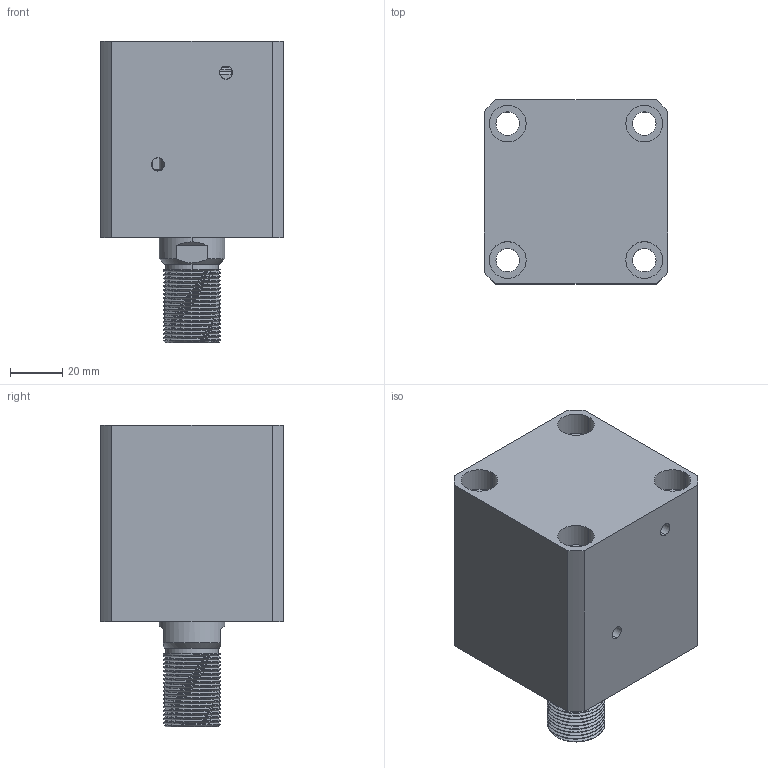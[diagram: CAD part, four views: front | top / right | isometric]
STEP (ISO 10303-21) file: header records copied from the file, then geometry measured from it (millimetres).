
FILE_DESCRIPTION (( 'STEP AP214' ), '1' );
FILE_NAME ('chtb-sdma40x20w_asm.STEP', '2018-06-06T00:50:24', ( 'Windows' ), ( 'Microsoft' ), 'SwSTEP 2.0', 'SolidWorks 2015', '' );
FILE_SCHEMA (( 'AUTOMOTIVE_DESIGN' ));
Length unit declared in the file: millimetre
Products named in the file (4): chtb-sdma40x20w_asm; CHTB-SDMA40X20NBT; CHTB-SD40X20WHSG; CHTB-SD40QG
Assembly tree (3 placements, depth 2):
  chtb-sdma40x20w_asm
    CHTB-SD40QG
    CHTB-SD40X20WHSG
    CHTB-SDMA40X20NBT
Bounding box: 70 x 70 x 115 mm (x, y, z)
Volume: 334000.2 mm3; surface area: 73529.9 mm2
Topology: 3 solids, 4 shells, 203 faces, 545 edges, 363 vertices
Faces by surface type: cylinder 122, plane 40, bspline 16, torus 14, cone 11
Entity records: 13587 total; most frequent: CARTESIAN_POINT 8658, ORIENTED_EDGE 1078, DIRECTION 914, EDGE_CURVE 539, AXIS2_PLACEMENT_3D 378, VERTEX_POINT 363, EDGE_LOOP 240, FACE_OUTER_BOUND 203
